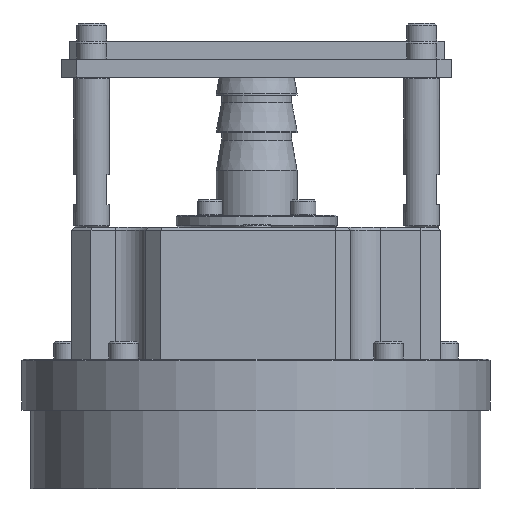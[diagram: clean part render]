
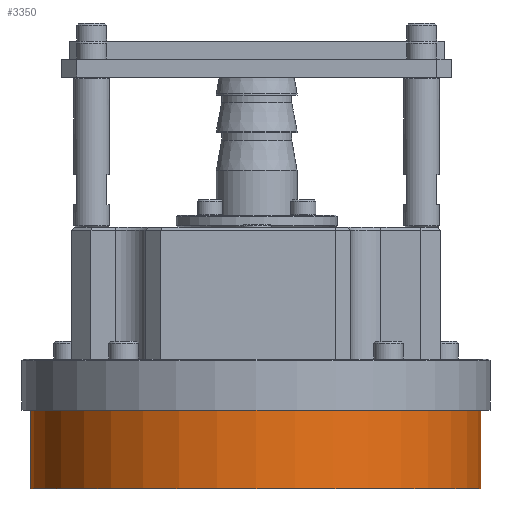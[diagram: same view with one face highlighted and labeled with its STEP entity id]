
A CAD part, left-side view. The second image highlights one B-rep face of the part: STEP entity #3350.
In plain terms, the highlighted cylindrical face has radius 75 mm (diameter 150 mm), a partial arc.
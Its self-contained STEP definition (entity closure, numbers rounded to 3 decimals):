
#3350=ADVANCED_FACE('',(#6777),#6778,.T.);
#6777=FACE_OUTER_BOUND('',#10801,.T.);
#6778=CYLINDRICAL_SURFACE('',#10802,75.0);
#10801=EDGE_LOOP('',(#16921,#16922,#16923,#16924));
#10802=AXIS2_PLACEMENT_3D('',#16925,#16926,#16927);
#16921=ORIENTED_EDGE('',*,*,#22052,.F.);
#16922=ORIENTED_EDGE('',*,*,#22039,.F.);
#16923=ORIENTED_EDGE('',*,*,#22058,.T.);
#16924=ORIENTED_EDGE('',*,*,#22047,.T.);
#16925=CARTESIAN_POINT('',(-100.0,0.0,3.2));
#16926=DIRECTION('',(0.0,0.0,-1.0));
#16927=DIRECTION('',(-1.0,0.0,0.0));
#22039=EDGE_CURVE('',#25266,#25261,#25268,.T.);
#22047=EDGE_CURVE('',#25282,#25280,#25283,.T.);
#22052=EDGE_CURVE('',#25261,#25280,#25289,.T.);
#22058=EDGE_CURVE('',#25266,#25282,#25297,.T.);
#25261=VERTEX_POINT('',#29611);
#25266=VERTEX_POINT('',#29618);
#25268=LINE('',#29621,#29622);
#25280=VERTEX_POINT('',#29638);
#25282=VERTEX_POINT('',#29641);
#25283=LINE('',#29642,#29643);
#25289=CIRCLE('',#29651,75.0);
#25297=CIRCLE('',#29660,75.0);
#29611=CARTESIAN_POINT('',(-100.0,75.0,3.2));
#29618=CARTESIAN_POINT('',(-100.0,75.0,-29.8));
#29621=CARTESIAN_POINT('',(-100.0,75.0,-29.8));
#29622=VECTOR('',#33681,1.0);
#29638=CARTESIAN_POINT('',(-100.0,-75.0,3.2));
#29641=CARTESIAN_POINT('',(-100.0,-75.0,-29.8));
#29642=CARTESIAN_POINT('',(-100.0,-75.0,-29.8));
#29643=VECTOR('',#33687,1.0);
#29651=AXIS2_PLACEMENT_3D('',#33693,#33694,#33695);
#29660=AXIS2_PLACEMENT_3D('',#33706,#33707,#33708);
#33681=DIRECTION('',(0.0,0.0,1.0));
#33687=DIRECTION('',(0.0,0.0,1.0));
#33693=CARTESIAN_POINT('',(-100.0,0.0,3.2));
#33694=DIRECTION('',(0.0,0.0,1.0));
#33695=DIRECTION('',(1.0,0.0,0.0));
#33706=CARTESIAN_POINT('',(-100.0,0.0,-29.8));
#33707=DIRECTION('',(0.0,0.0,1.0));
#33708=DIRECTION('',(1.0,0.0,0.0));
